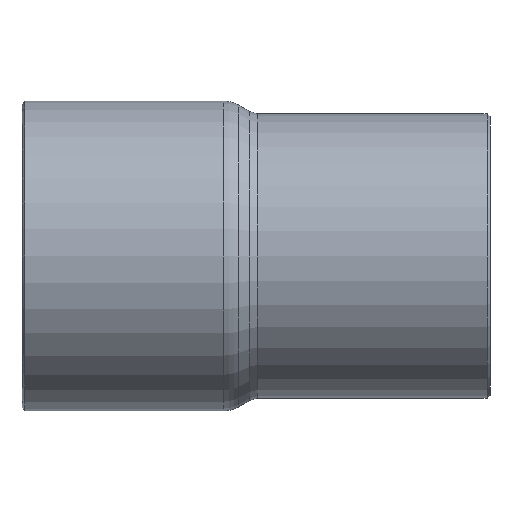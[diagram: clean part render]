
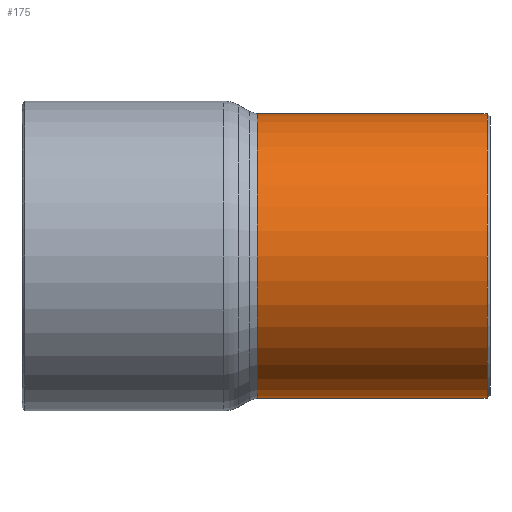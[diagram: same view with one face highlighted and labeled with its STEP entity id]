
A CAD part, front view. The second image highlights one B-rep face of the part: STEP entity #175.
In plain terms, the highlighted cylindrical face has radius 9.525 mm (diameter 19.05 mm), a full revolution.
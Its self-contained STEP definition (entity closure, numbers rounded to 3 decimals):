
#141=CARTESIAN_POINT('',(15.37,9.525,0.));
#142=VERTEX_POINT('',#141);
#143=CARTESIAN_POINT('',(15.37,0.0,0.0));
#144=DIRECTION('',(1.0,0.0,0.0));
#145=DIRECTION('',(0.0,-1.0,0.0));
#146=AXIS2_PLACEMENT_3D('',#143,#144,#145);
#147=CIRCLE('',#146,9.525);
#148=EDGE_CURVE('',#142,#142,#147,.T.);
#156=CARTESIAN_POINT('',(7.785,0.0,0.0));
#157=DIRECTION('',(1.0,0.0,0.0));
#158=DIRECTION('',(0.0,1.0,0.0));
#159=AXIS2_PLACEMENT_3D('',#156,#157,#158);
#160=CYLINDRICAL_SURFACE('',#159,9.525);
#161=CARTESIAN_POINT('',(0.,9.525,0.0));
#162=VERTEX_POINT('',#161);
#163=CARTESIAN_POINT('',(0.,0.0,0.0));
#164=DIRECTION('',(1.0,0.0,0.0));
#165=DIRECTION('',(0.0,1.0,0.0));
#166=AXIS2_PLACEMENT_3D('',#163,#164,#165);
#167=CIRCLE('',#166,9.525);
#168=EDGE_CURVE('',#162,#162,#167,.T.);
#169=ORIENTED_EDGE('',*,*,#168,.T.);
#170=EDGE_LOOP('',(#169));
#171=FACE_OUTER_BOUND('',#170,.T.);
#172=ORIENTED_EDGE('',*,*,#148,.F.);
#173=EDGE_LOOP('',(#172));
#174=FACE_BOUND('',#173,.T.);
#175=ADVANCED_FACE('',(#171,#174),#160,.T.);
